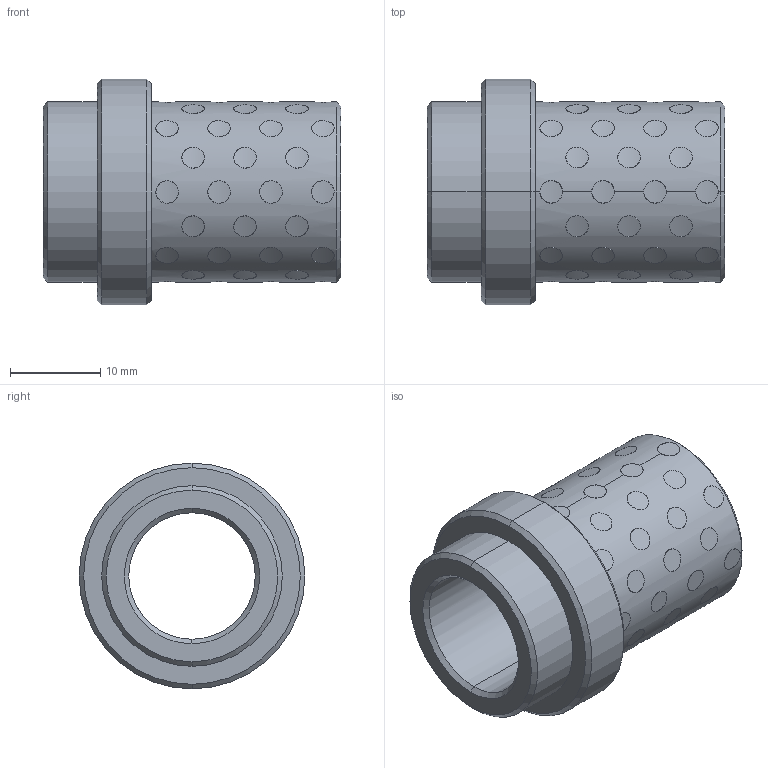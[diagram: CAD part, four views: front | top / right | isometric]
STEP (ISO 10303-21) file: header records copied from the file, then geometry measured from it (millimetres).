
FILE_DESCRIPTION((''),'2;1');
FILE_NAME('G31214027','2017-12-30T',('MANU'),(''),'PRO/ENGINEER BY PARAMETRIC TECHNOLOGY CORPORATION, 2012130','PRO/ENGINEER BY PARAMETRIC TECHNOLOGY CORPORATION, 2012130','');
FILE_SCHEMA(('CONFIG_CONTROL_DESIGN'));
Length unit declared in the file: millimetre
Products named in the file (1): G31214027
Bounding box: 33 x 25 x 25 mm (x, y, z)
Volume: 6291.6 mm3; surface area: 6822.9 mm2
Topology: 57 solids, 57 shells, 360 faces, 768 edges, 508 vertices
Faces by surface type: cylinder 344, cone 12, plane 4
Entity records: 15710 total; most frequent: CARTESIAN_POINT 8648, ORIENTED_EDGE 1536, DIRECTION 1036, EDGE_CURVE 768, VERTEX_POINT 508, B_SPLINE_CURVE_WITH_KNOTS 480, EDGE_LOOP 460, AXIS2_PLACEMENT_3D 388
